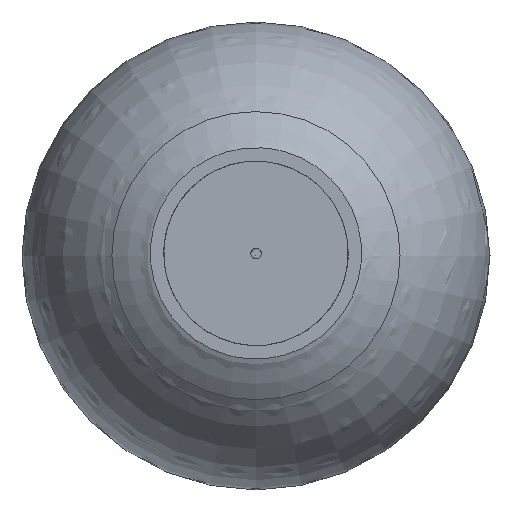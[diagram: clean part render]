
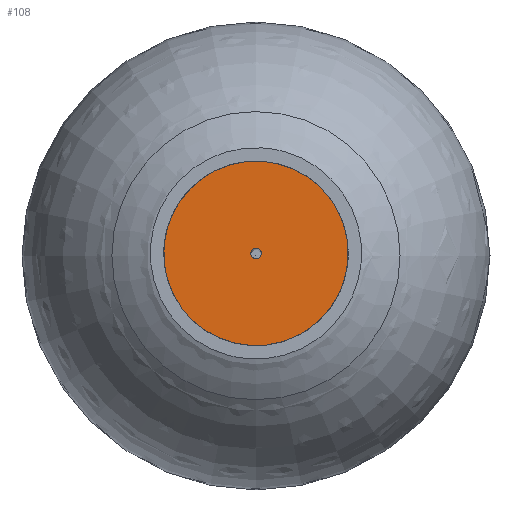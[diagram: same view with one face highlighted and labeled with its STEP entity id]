
A CAD part, top view. The second image highlights one B-rep face of the part: STEP entity #108.
In plain terms, the highlighted free-form (B-spline) face has degree [1, 1] with [2, 2] control points.
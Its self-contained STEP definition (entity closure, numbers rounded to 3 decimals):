
#108=ADVANCED_FACE('0:128',(#131,#132),#133,.F.);
#131=FACE_OUTER_BOUND('',#1030,.T.);
#132=FACE_BOUND('',#1031,.T.);
#133=B_SPLINE_SURFACE_WITH_KNOTS('',1,1,((#1032,#1033),(#1034,#1035)),.UNSPECIFIED.,.F.,.F.,.F.,(2,2),(2,2),(0.0,1.0),(0.0,1.0),.UNSPECIFIED.);
#1030=EDGE_LOOP('',(#4843));
#1031=EDGE_LOOP('',(#4844));
#1032=CARTESIAN_POINT('',(8.708,1430.259,1132.456));
#1033=CARTESIAN_POINT('',(-130.948,1430.259,1132.456));
#1034=CARTESIAN_POINT('',(8.708,1290.603,1132.456));
#1035=CARTESIAN_POINT('',(-130.948,1290.603,1132.456));
#4843=ORIENTED_EDGE('',*,*,#4886,.F.);
#4844=ORIENTED_EDGE('',*,*,#4884,.F.);
#4884=EDGE_CURVE('0:140',#4914,#4914,#4915,.T.);
#4886=EDGE_CURVE('0:134',#4918,#4918,#4919,.T.);
#4914=VERTEX_POINT('',#4970);
#4915=CIRCLE('',#4971,4.0);
#4918=VERTEX_POINT('',#4974);
#4919=CIRCLE('',#4975,69.0);
#4970=CARTESIAN_POINT('',(-61.369,1356.439,1132.456));
#4971=AXIS2_PLACEMENT_3D('',#5610,#5611,#5612);
#4974=CARTESIAN_POINT('',(-65.41,1291.565,1132.456));
#4975=AXIS2_PLACEMENT_3D('',#5616,#5617,#5618);
#5610=CARTESIAN_POINT('',(-61.12,1360.431,1132.456));
#5611=DIRECTION('',(0.,0.,1.0));
#5612=DIRECTION('',(-0.062,-0.998,0.));
#5616=CARTESIAN_POINT('',(-61.12,1360.431,1132.456));
#5617=DIRECTION('',(0.,0.,-1.0));
#5618=DIRECTION('',(-0.062,-0.998,0.));
